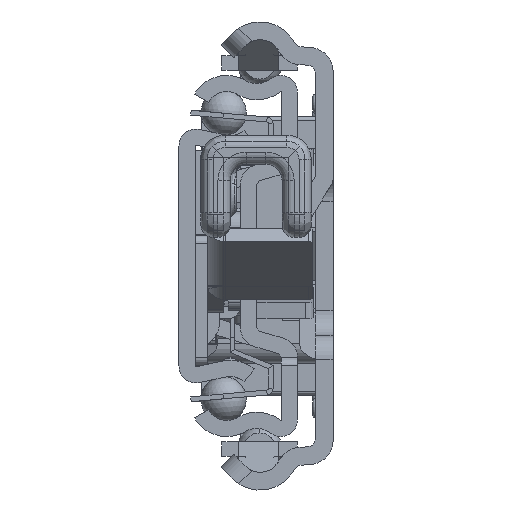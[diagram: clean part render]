
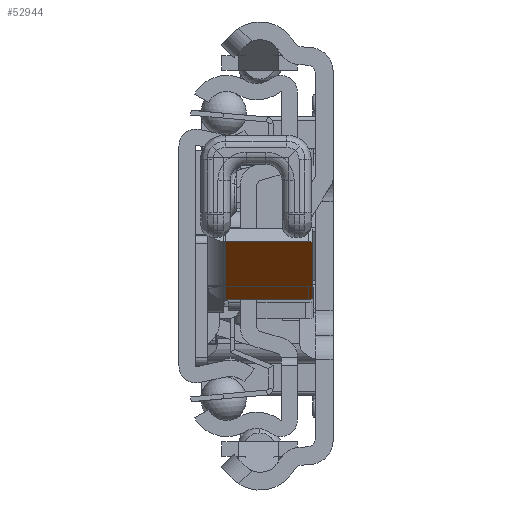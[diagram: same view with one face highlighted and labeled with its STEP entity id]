
A CAD part, left-side view. The second image highlights one B-rep face of the part: STEP entity #52944.
In plain terms, the highlighted planar face has unit normal (-0.597, 0, -0.802) as drawn and (-0.597, -0.802, 0) by its records, which use the part's own axes.
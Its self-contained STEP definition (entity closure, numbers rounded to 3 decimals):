
#52336=DIRECTION('',(0.802,-0.597,0.));
#52337=VECTOR('',#52336,12.);
#52338=CARTESIAN_POINT('',(31.957,-10.314,2.2));
#52339=LINE('',#52338,#52337);
#52364=CARTESIAN_POINT('',(41.184,-17.178,12.5));
#52365=DIRECTION('',(-0.597,-0.802,0.));
#52366=DIRECTION('',(0.802,-0.597,0.));
#52367=AXIS2_PLACEMENT_3D('',#52364,#52365,#52366);
#52369=DIRECTION('',(0.,0.,1.));
#52370=VECTOR('',#52369,10.3);
#52371=CARTESIAN_POINT('',(41.586,-17.476,2.2));
#52372=LINE('',#52371,#52370);
#52373=DIRECTION('',(0.,0.,-1.));
#52374=VECTOR('',#52373,10.3);
#52375=CARTESIAN_POINT('',(31.957,-10.314,12.5));
#52376=LINE('',#52375,#52374);
#52377=CARTESIAN_POINT('',(32.358,-10.613,12.5));
#52378=DIRECTION('',(-0.597,-0.802,0.));
#52379=DIRECTION('',(0.,0.,1.));
#52380=AXIS2_PLACEMENT_3D('',#52377,#52378,#52379);
#52382=DIRECTION('',(-0.802,0.597,0.));
#52383=VECTOR('',#52382,11.);
#52384=CARTESIAN_POINT('',(41.184,-17.178,13.));
#52385=LINE('',#52384,#52383);
#52598=CARTESIAN_POINT('',(31.957,-10.314,2.2));
#52599=CARTESIAN_POINT('',(41.586,-17.476,2.2));
#52600=VERTEX_POINT('',#52598);
#52601=VERTEX_POINT('',#52599);
#52630=CARTESIAN_POINT('',(41.586,-17.476,12.5));
#52631=CARTESIAN_POINT('',(41.184,-17.178,13.));
#52632=VERTEX_POINT('',#52630);
#52633=VERTEX_POINT('',#52631);
#52638=CARTESIAN_POINT('',(32.358,-10.613,13.));
#52639=CARTESIAN_POINT('',(31.957,-10.314,12.5));
#52640=VERTEX_POINT('',#52638);
#52641=VERTEX_POINT('',#52639);
#52926=CARTESIAN_POINT('',(34.726,-12.374,0.));
#52927=DIRECTION('',(-0.597,-0.802,0.));
#52928=DIRECTION('',(0.802,-0.597,0.));
#52929=AXIS2_PLACEMENT_3D('',#52926,#52927,#52928);
#52930=PLANE('',#52929);
#52932=ORIENTED_EDGE('',*,*,#52931,.F.);
#52934=ORIENTED_EDGE('',*,*,#52933,.F.);
#52935=ORIENTED_EDGE('',*,*,#52913,.F.);
#52937=ORIENTED_EDGE('',*,*,#52936,.F.);
#52939=ORIENTED_EDGE('',*,*,#52938,.F.);
#52941=ORIENTED_EDGE('',*,*,#52940,.F.);
#52942=EDGE_LOOP('',(#52932,#52934,#52935,#52937,#52939,#52941));
#52943=FACE_OUTER_BOUND('',#52942,.F.);
#52368=CIRCLE('',#52367,0.5);
#52381=CIRCLE('',#52380,0.5);
#52913=EDGE_CURVE('',#52600,#52601,#52339,.T.);
#52931=EDGE_CURVE('',#52632,#52633,#52368,.T.);
#52933=EDGE_CURVE('',#52601,#52632,#52372,.T.);
#52936=EDGE_CURVE('',#52641,#52600,#52376,.T.);
#52938=EDGE_CURVE('',#52640,#52641,#52381,.T.);
#52940=EDGE_CURVE('',#52633,#52640,#52385,.T.);
#52944=ADVANCED_FACE('',(#52943),#52930,.T.);
